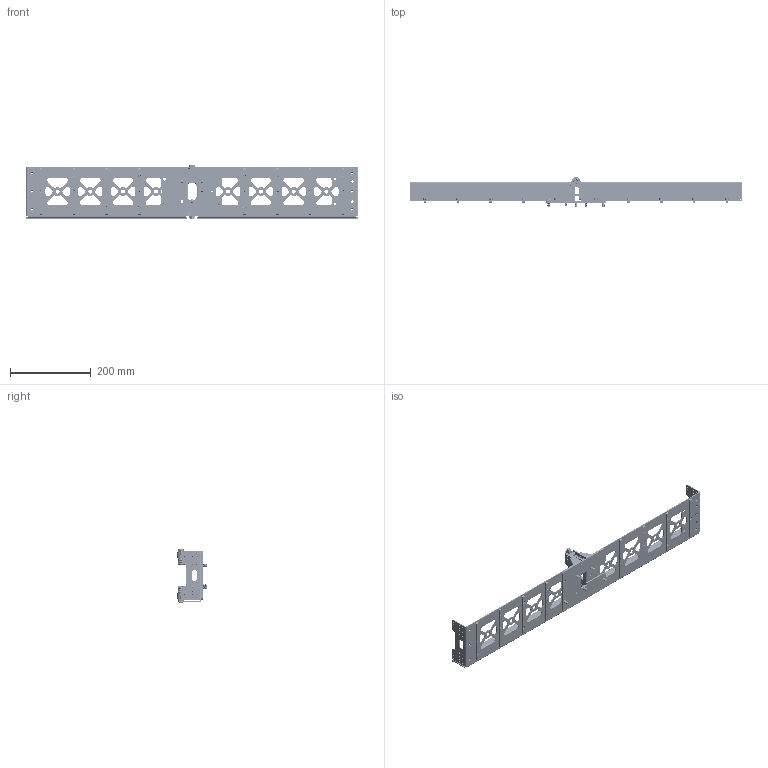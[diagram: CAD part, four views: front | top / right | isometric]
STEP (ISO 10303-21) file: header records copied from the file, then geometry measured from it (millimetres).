
FILE_DESCRIPTION (( 'STEP AP214' ), '1' );
FILE_NAME ('710-02069-A DCSA 11 Panel - Deployed.STEP', '2019-02-05T23:54:48', ( '' ), ( '' ), 'SwSTEP 2.0', 'SolidWorks 2014', '' );
FILE_SCHEMA (( 'AUTOMOTIVE_DESIGN' ));
Length unit declared in the file: inch
Products named in the file (2): 710-02069-A DCSA 11 Panel - Deployed
Bounding box: 822.61 x 74.05 x 136.27 mm (x, y, z)
Volume: 445576.9 mm3; surface area: 359688.8 mm2
Topology: 13 solids, 356 shells, 10532 faces, 23578 edges, 13395 vertices
Faces by surface type: cone 4830, plane 3099, cylinder 2322, torus 156, bspline 89, sphere 36
Entity records: 357722 total; most frequent: CARTESIAN_POINT 123819, DIRECTION 51164, ORIENTED_EDGE 47084, EDGE_CURVE 23542, AXIS2_PLACEMENT_3D 19547, VERTEX_POINT 13395, LINE 12070, VECTOR 12070
